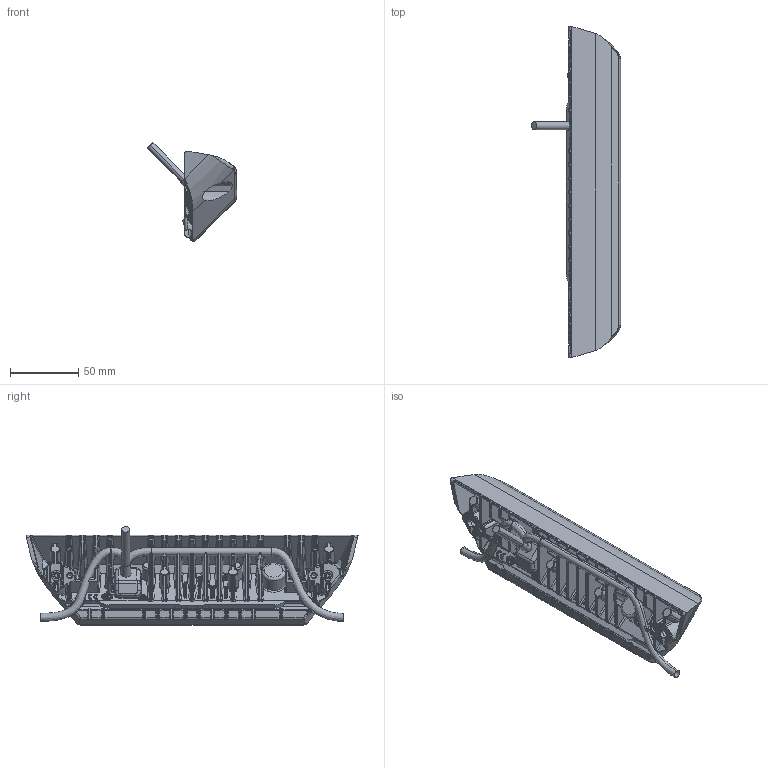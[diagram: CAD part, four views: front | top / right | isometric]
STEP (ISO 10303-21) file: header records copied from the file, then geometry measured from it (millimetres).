
FILE_DESCRIPTION(('CATIA V5 STEP Exchange','CAx-IF Rec.Pracs.--- Model Styling and Organization---1.5--- 2016-08-15','CAx-IF Rec.Pracs.---Supplemental Geometry---1.0---2011-11-01','CAx-IF Rec.Pracs.--- Composite Materials ---1.1---2010-07-15'),'2;1');
FILE_NAME('E:\tmp\ddx\2015442\HELLA_3D_data_FMS_Base_996-098-00.stp','2022-01-28T12:01:11+00:00',('none'),('none'),'CATIA Version 5-6 Release 2020 SP3 HF9','CATIA V5 STEP AP214 Edition 3 v2','none');
FILE_SCHEMA(('AUTOMOTIVE_DESIGN { 1 0 10303 214 3 1 1 1 }'));
Products named in the file (1): 10002600156_D10_001
Bounding box: 65.32 x 242.87 x 72.18 mm (x, y, z)
Volume: 281006.6 mm3; surface area: 84902.8 mm2
Topology: 3 solids, 10 shells, 4383 faces, 11073 edges, 6659 vertices
Faces by surface type: bspline 1321, plane 1102, cylinder 839, extrusion 827, sphere 115, torus 99, cone 80
Entity records: 213866 total; most frequent: CARTESIAN_POINT 130111, ORIENTED_EDGE 21780, EDGE_CURVE 10894, DIRECTION 8911, VERTEX_POINT 6659, B_SPLINE_CURVE_WITH_KNOTS 6229, EDGE_LOOP 4537, VECTOR 4428
